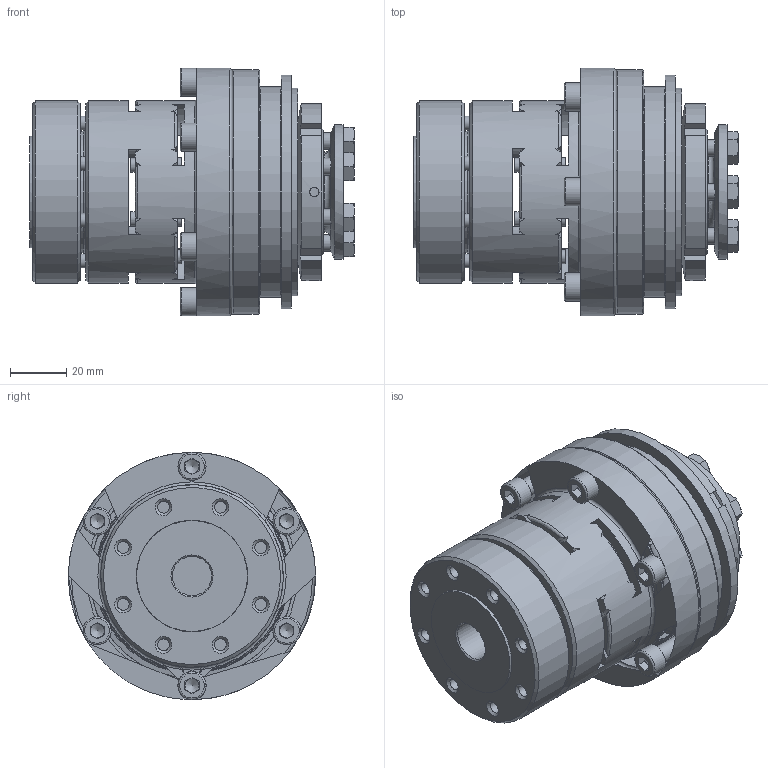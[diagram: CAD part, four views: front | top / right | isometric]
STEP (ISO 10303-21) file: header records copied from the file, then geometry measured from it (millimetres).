
FILE_DESCRIPTION( ( 'Unknown' ), '1' );
FILE_NAME( 'F:/JAKOB-STEP+IGES-Dateien/STEP-Dateien/SKY-ES/SKY-ES 150.stp', 'Unknown', ( 'Unknown' ), ( 'Unknown' ), 'PSStep 10.1', 'Unknown', ' ' );
FILE_SCHEMA( ( 'AUTOMOTIVE_DESIGN { 1 0 10303 214 1 1 1 1 }' ) );
Length unit declared in the file: millimetre
Products named in the file (1): KT101732
Bounding box: 115.5 x 88 x 88 mm (x, y, z)
Volume: 349128 mm3; surface area: 108677.8 mm2
Topology: 1 solids, 17 shells, 822 faces, 2161 edges, 1388 vertices
Faces by surface type: plane 382, cylinder 197, cone 144, torus 84, sphere 15
Full cylindrical faces by diameter (mm): 2 x2, 3.3 x3, 4.2 x12, 5 x31, 5.4 x8, 6 x12, 6.4 x12, 8.5 x8, 8.7 x6, 9 x8, 10 x6, 14 x2, 14.5 x1, 25.5 x1, 28.5 x1, 30 x2, 40 x1, 40.5 x1, 42.5 x1, 43.1 x1, 44.8 x1, 45 x2, 46 x1, 46.1 x1, 46.5 x1, 48 x1, 49 x1, 52.3 x2, 56 x1, 60.8 x2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
Entity records: 31336 total; most frequent: CARTESIAN_POINT 6509, DIRECTION 3812, ORIENTED_EDGE 3418, EDGE_CURVE 1709, AXIS2_PLACEMENT_3D 1623, EDGE_LOOP 1229, VERTEX_POINT 1216, FACE_OUTER_BOUND 989
